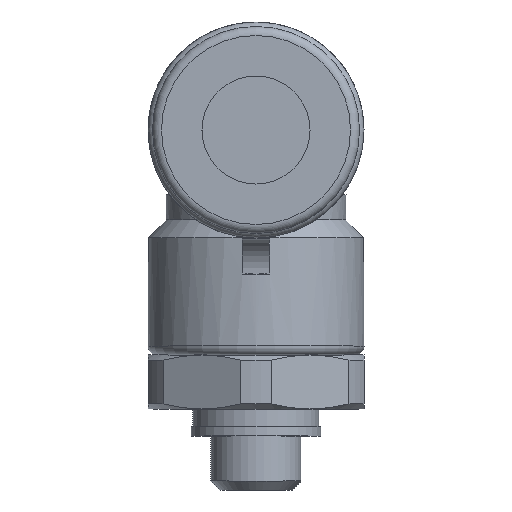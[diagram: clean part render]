
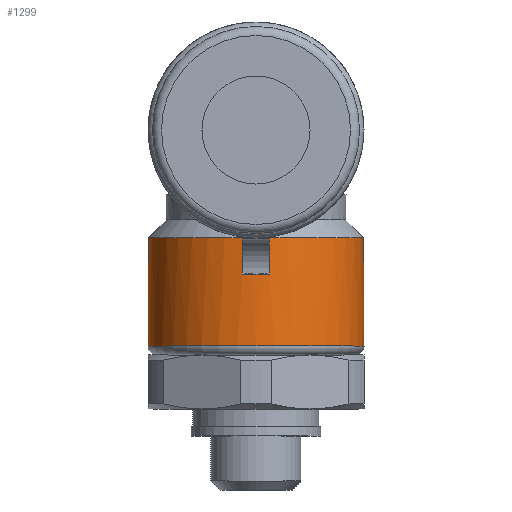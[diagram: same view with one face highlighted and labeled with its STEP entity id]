
A CAD part, left-side view. The second image highlights one B-rep face of the part: STEP entity #1299.
In plain terms, the highlighted cylindrical face has radius 6 mm (diameter 12 mm), a full revolution.
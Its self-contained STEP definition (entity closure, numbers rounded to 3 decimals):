
#74=FACE_BOUND($,#415,.T.);
#123=LINE($,#2047,#167);
#132=LINE($,#2079,#176);
#147=LINE($,#2373,#191);
#148=LINE($,#2375,#192);
#167=VECTOR($,#1612,2.);
#176=VECTOR($,#1627,2.);
#191=VECTOR($,#1842,2.);
#192=VECTOR($,#1843,2.);
#224=CYLINDRICAL_SURFACE($,#1470,6.);
#296=FACE_OUTER_BOUND($,#414,.T.);
#414=EDGE_LOOP($,(#1119,#1120,#1121,#1122,#1123,#1124,#1125,#1126,#1127,
#1128));
#415=EDGE_LOOP($,(#1129));
#458=CIRCLE($,#1363,6.);
#459=CIRCLE($,#1365,6.);
#479=CIRCLE($,#1412,6.);
#506=CIRCLE($,#1467,6.);
#507=CIRCLE($,#1469,6.);
#508=CIRCLE($,#1471,6.);
#509=CIRCLE($,#1472,6.);
#583=VERTEX_POINT($,#2031);
#584=VERTEX_POINT($,#2032);
#586=VERTEX_POINT($,#2038);
#589=VERTEX_POINT($,#2046);
#600=VERTEX_POINT($,#2075);
#625=VERTEX_POINT($,#2236);
#655=VERTEX_POINT($,#2360);
#656=VERTEX_POINT($,#2361);
#658=VERTEX_POINT($,#2367);
#660=VERTEX_POINT($,#2374);
#661=VERTEX_POINT($,#2377);
#716=EDGE_CURVE($,#583,#584,#458,.T.);
#719=EDGE_CURVE($,#586,#583,#459,.T.);
#723=EDGE_CURVE($,#589,#586,#123,.T.);
#736=EDGE_CURVE($,#584,#600,#132,.T.);
#773=EDGE_CURVE($,#600,#625,#479,.T.);
#817=EDGE_CURVE($,#655,#656,#506,.T.);
#820=EDGE_CURVE($,#658,#655,#507,.T.);
#823=EDGE_CURVE($,#656,#625,#147,.T.);
#824=EDGE_CURVE($,#660,#658,#148,.T.);
#825=EDGE_CURVE($,#660,#589,#508,.T.);
#826=EDGE_CURVE($,#661,#661,#509,.T.);
#1119=ORIENTED_EDGE($,*,*,#773,.T.);
#1120=ORIENTED_EDGE($,*,*,#823,.F.);
#1121=ORIENTED_EDGE($,*,*,#817,.F.);
#1122=ORIENTED_EDGE($,*,*,#820,.F.);
#1123=ORIENTED_EDGE($,*,*,#824,.F.);
#1124=ORIENTED_EDGE($,*,*,#825,.T.);
#1125=ORIENTED_EDGE($,*,*,#723,.T.);
#1126=ORIENTED_EDGE($,*,*,#719,.T.);
#1127=ORIENTED_EDGE($,*,*,#716,.T.);
#1128=ORIENTED_EDGE($,*,*,#736,.T.);
#1129=ORIENTED_EDGE($,*,*,#826,.T.);
#1299=ADVANCED_FACE($,(#296,#74),#224,.T.);
#1363=AXIS2_PLACEMENT_3D($,#2033,#1598,#1599);
#1365=AXIS2_PLACEMENT_3D($,#2039,#1604,#1605);
#1412=AXIS2_PLACEMENT_3D($,#2240,#1714,#1715);
#1467=AXIS2_PLACEMENT_3D($,#2362,#1830,#1831);
#1469=AXIS2_PLACEMENT_3D($,#2368,#1836,#1837);
#1470=AXIS2_PLACEMENT_3D($,#2372,#1840,#1841);
#1471=AXIS2_PLACEMENT_3D($,#2376,#1844,#1845);
#1472=AXIS2_PLACEMENT_3D($,#2378,#1846,#1847);
#1598=DIRECTION('center_axis',(0.,0.,-1.));
#1599=DIRECTION('ref_axis',(1.,0.,0.));
#1604=DIRECTION('center_axis',(0.,0.,-1.));
#1605=DIRECTION('ref_axis',(1.,0.,0.));
#1612=DIRECTION($,(0.,0.,-1.));
#1627=DIRECTION($,(0.,0.,1.));
#1714=DIRECTION('center_axis',(0.,0.,-1.));
#1715=DIRECTION('ref_axis',(-1.,0.,0.));
#1830=DIRECTION('center_axis',(0.,0.,1.));
#1831=DIRECTION('ref_axis',(-1.,0.,0.));
#1836=DIRECTION('center_axis',(0.,0.,1.));
#1837=DIRECTION('ref_axis',(-1.,0.,0.));
#1840=DIRECTION('center_axis',(0.,0.,1.));
#1841=DIRECTION('ref_axis',(-1.,0.,0.));
#1842=DIRECTION($,(0.,0.,1.));
#1843=DIRECTION($,(0.,0.,-1.));
#1844=DIRECTION('center_axis',(0.,0.,-1.));
#1845=DIRECTION('ref_axis',(-1.,0.,0.));
#1846=DIRECTION('center_axis',(0.,0.,1.));
#1847=DIRECTION('ref_axis',(-1.,0.,0.));
#2031=CARTESIAN_POINT('',(-6.,0.,-8.));
#2032=CARTESIAN_POINT('',(-5.953,0.75,-8.));
#2033=CARTESIAN_POINT('Origin',(0.,0.,-8.));
#2038=CARTESIAN_POINT('',(-5.953,-0.75,-8.));
#2039=CARTESIAN_POINT('Origin',(0.,0.,-8.));
#2046=CARTESIAN_POINT('',(-5.953,-0.75,-6.));
#2047=CARTESIAN_POINT($,(-5.953,-0.75,-5.));
#2075=CARTESIAN_POINT('',(-5.953,0.75,-6.));
#2079=CARTESIAN_POINT($,(-5.953,0.75,-5.));
#2236=CARTESIAN_POINT('',(5.953,0.75,-6.));
#2240=CARTESIAN_POINT('Origin',(0.,0.,-6.));
#2360=CARTESIAN_POINT('',(6.,0.,-8.));
#2361=CARTESIAN_POINT('',(5.953,0.75,-8.));
#2362=CARTESIAN_POINT('Origin',(0.,0.,-8.));
#2367=CARTESIAN_POINT('',(5.953,-0.75,-8.));
#2368=CARTESIAN_POINT('Origin',(0.,0.,-8.));
#2372=CARTESIAN_POINT('Origin',(0.,0.,-5.));
#2373=CARTESIAN_POINT($,(5.953,0.75,-5.));
#2374=CARTESIAN_POINT('',(5.953,-0.75,-6.));
#2375=CARTESIAN_POINT($,(5.953,-0.75,-5.));
#2376=CARTESIAN_POINT('Origin',(0.,0.,-6.));
#2377=CARTESIAN_POINT('',(0.,6.,-12.));
#2378=CARTESIAN_POINT('Origin',(0.,0.,-12.));
